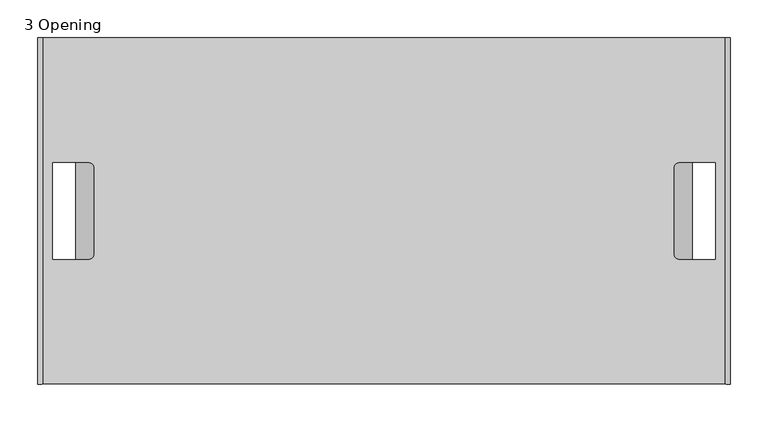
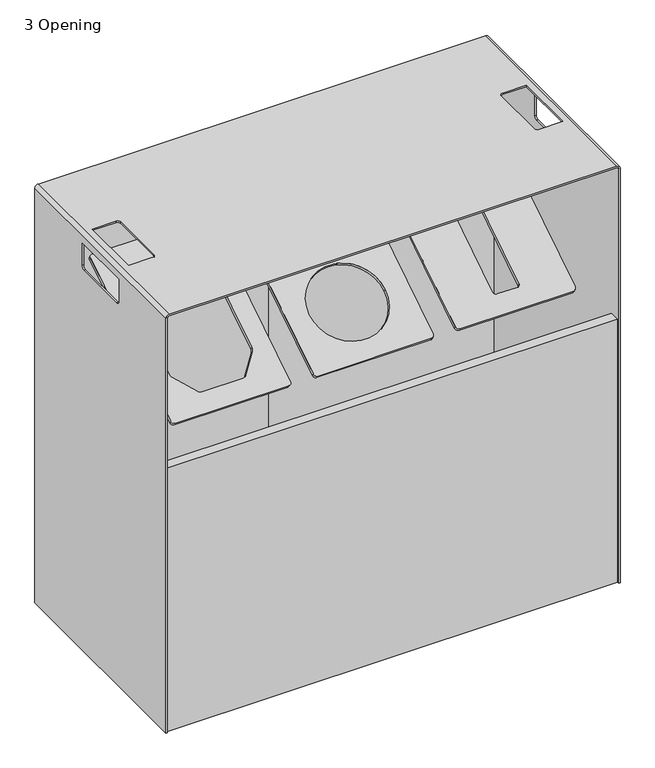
"""IFC4 building model written with IfcOpenShell, lengths in millimetres: furniture geometry, Steelcase - Victor2 - Mobile Unit : 3 Opening."""

from ifc_helpers import new_model, si_unit, point, frame, origin, place, context, project, spatial, polyline, circle_curve, ellipse_curve, trimmed, outline, extrude, source, transform, mapped, element, save
from ifc_brep_helpers import plane_surface, cylinder_surface, revolved_surface, extruded_surface, advanced_brep


def furniture_3_opening_457c4e11(model_context):
    return source(origin(), model_context, "Body", "SolidModel", [
        advanced_brep(
        [(56.15, -102.6571407, 810.2637759), (49.8, -108.013156, 806.8526764), (49.8, -386.8172703, 629.2899642), (56.15, -392.1732856, 625.8788646), (284.75, -392.1732856, 625.8788646), (291.1, -386.8172703, 629.2899642), (291.1, -108.013156, 806.8526764), (284.75, -102.6571407, 810.2637759), (87.9, -181.8492622, 759.8284805), (90.1001533, -176.7313579, 763.0879338), (122.8895643, -143.6088696, 784.1827403), (130.838696, -140.472476, 786.1802235), (209.3959224, -140.472476, 786.1802235), (220.1220339, -144.7339742, 783.4661919), (251.3108387, -176.5831405, 763.1823293), (253.0, -180.5453164, 760.6589279), (253.0, -317.6889974, 673.3158698), (250.0484863, -324.5546846, 668.9433015), (219.8334911, -355.076606, 649.5047249), (211.2749163, -358.4534602, 647.3540988), (128.6285355, -358.4534602, 647.3540988), (122.0278056, -355.8309816, 649.0242837), (90.005801, -323.1309741, 669.8500238), (87.9, -318.1915086, 672.9958342), (56.15, -99.5358468, 805.3628057), (284.75, -99.5358468, 805.3628057), (291.1, -104.8918621, 801.9517061), (291.1, -383.6959765, 624.388994), (284.75, -389.0519917, 620.9778944), (56.15, -389.0519917, 620.9778944), (49.8, -383.6959765, 624.388994), (49.8, -104.8918621, 801.9517061), (87.9, -178.7279683, 754.9275102), (87.9, -315.0702147, 668.094864), (90.005801, -320.0096802, 664.9490535), (122.0278056, -352.7096877, 644.1233135), (128.6285355, -355.3321664, 642.4531286), (211.2749163, -355.3321664, 642.4531286), (219.8334911, -351.9553121, 644.6037546), (250.0484863, -321.4333907, 664.0423313), (253.0, -314.5677035, 668.4148996), (253.0, -177.4240226, 755.7579576), (251.3108387, -173.4618467, 758.2813591), (220.1220339, -141.6126804, 778.5652216), (209.3959224, -137.3511822, 781.2792533), (130.838696, -137.3511822, 781.2792533), (122.8895643, -140.4875758, 779.28177), (90.1001533, -173.610064, 758.1869635)],
        [
            (0, 1, circle_curve(frame((56.15, -108.013156, 806.8526764), z_axis=(0.0, -0.537181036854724, 0.8434669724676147), x_axis=(1.0, 0.0, 0.0)), 6.35)),
            (1, 2),
            (2, 3, circle_curve(frame((56.15, -386.8172703, 629.2899642), z_axis=(0.0, -0.537181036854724, 0.8434669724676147), x_axis=(1.0, 0.0, 0.0)), 6.35)),
            (3, 4),
            (4, 5, circle_curve(frame((284.75, -386.8172703, 629.2899642), z_axis=(0.0, -0.537181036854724, 0.8434669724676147), x_axis=(1.0, 0.0, 0.0)), 6.35)),
            (5, 6),
            (6, 7, circle_curve(frame((284.75, -108.013156, 806.8526764), z_axis=(0.0, -0.537181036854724, 0.8434669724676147), x_axis=(1.0, 0.0, 0.0)), 6.35)),
            (7, 0),
            (8, 9, circle_curve(frame((97.366989, -181.8492622, 759.8284805), z_axis=(0.0, 0.537181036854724, -0.8434669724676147), x_axis=(1.0, 0.0, 0.0)), 9.466989)),
            (9, 10),
            (10, 11, circle_curve(frame((130.838696, -149.207303, 780.6172512), z_axis=(0.0, 0.537181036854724, -0.8434669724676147), x_axis=(1.0, 0.0, 0.0)), 10.3558613)),
            (11, 12),
            (12, 13, circle_curve(frame((209.3959224, -152.2067016, 778.7070164), z_axis=(0.0, 0.537181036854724, -0.8434669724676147), x_axis=(1.0, 0.0, 0.0)), 13.9118968)),
            (13, 14),
            (14, 15, circle_curve(frame((245.6236593, -180.5453164, 760.6589279), z_axis=(0.0, 0.537181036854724, -0.8434669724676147), x_axis=(1.0, 0.0, 0.0)), 7.3763407)),
            (15, 16),
            (16, 17, circle_curve(frame((240.3, -317.6889974, 673.3158698), z_axis=(0.0, 0.537181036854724, -0.8434669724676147), x_axis=(1.0, 0.0, 0.0)), 12.7)),
            (17, 18),
            (18, 19, circle_curve(frame((211.2749163, -349.0489526, 653.3435724), z_axis=(0.0, 0.537181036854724, -0.8434669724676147), x_axis=(1.0, 0.0, 0.0)), 11.1498233)),
            (19, 20),
            (20, 21, circle_curve(frame((128.6285355, -351.2323482, 651.9530275), z_axis=(0.0, 0.537181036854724, -0.8434669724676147), x_axis=(1.0, 0.0, 0.0)), 8.5612268)),
            (21, 22),
            (22, 23, circle_curve(frame((97.0957503, -318.1915086, 672.9958342), z_axis=(0.0, 0.537181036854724, -0.8434669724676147), x_axis=(1.0, 0.0, 0.0)), 9.1957503)),
            (23, 8),
            (24, 25),
            (25, 26, circle_curve(frame((284.75, -104.8918621, 801.9517061), z_axis=(0.0, 0.537181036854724, -0.8434669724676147), x_axis=(1.0, 0.0, 0.0)), 6.35)),
            (26, 27),
            (27, 28, circle_curve(frame((284.75, -383.6959765, 624.388994), z_axis=(0.0, 0.537181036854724, -0.8434669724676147), x_axis=(1.0, 0.0, 0.0)), 6.35)),
            (28, 29),
            (29, 30, circle_curve(frame((56.15, -383.6959765, 624.388994), z_axis=(0.0, 0.537181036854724, -0.8434669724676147), x_axis=(1.0, 0.0, 0.0)), 6.35)),
            (30, 31),
            (31, 24, circle_curve(frame((56.15, -104.8918621, 801.9517061), z_axis=(0.0, 0.537181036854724, -0.8434669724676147), x_axis=(1.0, 0.0, 0.0)), 6.35)),
            (32, 33),
            (33, 34, circle_curve(frame((97.0957503, -315.0702147, 668.094864), z_axis=(0.0, -0.537181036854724, 0.8434669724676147), x_axis=(1.0, 0.0, 0.0)), 9.1957503)),
            (34, 35),
            (35, 36, circle_curve(frame((128.6285355, -348.1110543, 647.0520572), z_axis=(0.0, -0.537181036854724, 0.8434669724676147), x_axis=(1.0, 0.0, 0.0)), 8.5612268)),
            (36, 37),
            (37, 38, circle_curve(frame((211.2749163, -345.9276587, 648.4426022), z_axis=(0.0, -0.537181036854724, 0.8434669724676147), x_axis=(1.0, 0.0, 0.0)), 11.1498233)),
            (38, 39),
            (39, 40, circle_curve(frame((240.3, -314.5677035, 668.4148996), z_axis=(0.0, -0.537181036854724, 0.8434669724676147), x_axis=(1.0, 0.0, 0.0)), 12.7)),
            (40, 41),
            (41, 42, circle_curve(frame((245.6236593, -177.4240226, 755.7579576), z_axis=(0.0, -0.537181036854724, 0.8434669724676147), x_axis=(1.0, 0.0, 0.0)), 7.3763407)),
            (42, 43),
            (43, 44, circle_curve(frame((209.3959224, -149.0854077, 773.8060461), z_axis=(0.0, -0.537181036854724, 0.8434669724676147), x_axis=(1.0, 0.0, 0.0)), 13.9118968)),
            (44, 45),
            (45, 46, circle_curve(frame((130.838696, -146.0860091, 775.716281), z_axis=(0.0, -0.537181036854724, 0.8434669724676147), x_axis=(1.0, 0.0, 0.0)), 10.3558613)),
            (46, 47),
            (47, 32, circle_curve(frame((97.366989, -178.7279683, 754.9275102), z_axis=(0.0, -0.537181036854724, 0.8434669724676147), x_axis=(1.0, 0.0, 0.0)), 9.466989)),
            (0, 24),
            (31, 1),
            (30, 2),
            (29, 3),
            (28, 4),
            (27, 5),
            (26, 6),
            (25, 7),
            (8, 32),
            (47, 9),
            (46, 10),
            (45, 11),
            (44, 12),
            (43, 13),
            (42, 14),
            (41, 15),
            (40, 16),
            (39, 17),
            (38, 18),
            (37, 19),
            (36, 20),
            (35, 21),
            (34, 22),
            (33, 23),
        ],
        [
            plane_surface(frame((62.5, -108.013156, 806.8526764), z_axis=(0.0, -0.5371810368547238, 0.8434669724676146), x_axis=(0.0, 0.8434669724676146, 0.5371810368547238))),
            plane_surface(frame((62.5, -104.8918621, 801.9517061), z_axis=(0.0, 0.5371810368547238, -0.8434669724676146), x_axis=(0.0, -0.8434669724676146, -0.5371810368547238))),
            cylinder_surface(frame((56.15, -104.8918621, 801.9517061), z_axis=(0.0, -0.537181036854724, 0.8434669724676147), x_axis=(1.0, 0.0, 0.0)), 6.35),
            plane_surface(frame((49.8, -108.013156, 806.8526764), z_axis=(-1.0000000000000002, 0.0, 0.0), x_axis=(0.0, 0.5371810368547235, -0.843466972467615))),
            cylinder_surface(frame((56.15, -383.6959765, 624.388994), z_axis=(0.0, -0.537181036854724, 0.8434669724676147), x_axis=(1.0, 0.0, 0.0)), 6.35),
            plane_surface(frame((56.15, -392.1732856, 625.8788646), z_axis=(0.0, -0.843466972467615, -0.5371810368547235), x_axis=(0.0, 0.5371810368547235, -0.843466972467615))),
            cylinder_surface(frame((284.75, -383.6959765, 624.388994), z_axis=(0.0, -0.537181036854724, 0.8434669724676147), x_axis=(1.0, 0.0, 0.0)), 6.35),
            plane_surface(frame((291.1, -386.8172703, 629.2899642), z_axis=(1.0000000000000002, 0.0, 0.0), x_axis=(0.0, 0.5371810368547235, -0.843466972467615))),
            cylinder_surface(frame((284.75, -104.8918621, 801.9517061), z_axis=(0.0, -0.537181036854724, 0.8434669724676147), x_axis=(1.0, 0.0, 0.0)), 6.35),
            plane_surface(frame((284.75, -102.6571407, 810.2637759), z_axis=(0.0, 0.8434669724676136, 0.5371810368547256), x_axis=(0.0, 0.5371810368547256, -0.8434669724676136))),
            revolved_surface(polyline([(106.833978, -178.7279683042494, 754.9275101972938), (106.833978, -181.8492622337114, 759.8284805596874)]), (97.366989, 251.3620675, 79.6118987), (0.0, 0.537181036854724, -0.8434669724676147)),
            plane_surface(frame((90.1001533, -176.7313579, 763.0879338), z_axis=(0.767597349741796, -0.5406052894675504, -0.34429671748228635), x_axis=(0.0, 0.5371810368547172, -0.843466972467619))),
            revolved_surface(polyline([(141.19455729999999, -146.0860091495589, 775.7162809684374), (141.19455729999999, -149.20730301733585, 780.617251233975)]), (130.838696, 284.0040267, 100.4006694), (0.0, 0.537181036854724, -0.8434669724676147)),
            plane_surface(frame((130.838696, -140.472476, 786.1802235), z_axis=(0.0, -0.8434669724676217, -0.537181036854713), x_axis=(0.0, 0.537181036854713, -0.8434669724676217))),
            revolved_surface(polyline([(223.30781919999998, -149.085407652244, 773.8060460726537), (223.30781919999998, -152.20670157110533, 778.7070164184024)]), (209.3959224, 281.0046282, 98.4904345), (0.0, 0.537181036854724, -0.8434669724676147)),
            plane_surface(frame((220.1220339, -144.7339742, 783.4661919), z_axis=(-0.7710028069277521, -0.5371465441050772, -0.3420939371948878), x_axis=(0.0, 0.5371810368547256, -0.8434669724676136))),
            revolved_surface(polyline([(253.0, -177.42402257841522, 755.7579576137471), (253.0, -180.545316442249, 760.6589278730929)]), (245.6236593, 252.6660133, 80.442346), (0.0, 0.537181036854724, -0.8434669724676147)),
            plane_surface(frame((253.0, -180.5453164, 760.6589279), z_axis=(-1.0000000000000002, 0.0, 0.0), x_axis=(0.0, 0.5371810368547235, -0.843466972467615))),
            revolved_surface(polyline([(253.0, -314.56770354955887, 668.4148995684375), (253.0, -317.68899740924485, 673.3158698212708)]), (240.3, 115.5223323, -6.900712), (0.0, 0.537181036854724, -0.8434669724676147)),
            plane_surface(frame((250.0484863, -324.5546846, 668.9433015), z_axis=(-0.7675973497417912, 0.5406052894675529, 0.3442967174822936), x_axis=(0.0, 0.5371810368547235, -0.843466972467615))),
            revolved_surface(polyline([(222.4247396, -345.92765864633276, 648.4426021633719), (222.4247396, -349.04895253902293, 653.3435724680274)]), (211.2749163, 84.1623772, -26.8730094), (0.0, 0.537181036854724, -0.8434669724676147)),
            plane_surface(frame((211.2749163, -358.4534602, 647.3540988), z_axis=(0.0, 0.843466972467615, 0.5371810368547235), x_axis=(0.0, 0.5371810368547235, -0.843466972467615))),
            revolved_surface(polyline([(137.18976229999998, -348.1110542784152, 647.052057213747), (137.18976229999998, -351.23234817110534, 651.9530275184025)]), (128.6285355, 81.9789816, -28.2635544), (0.0, 0.537181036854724, -0.8434669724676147)),
            plane_surface(frame((122.0278056, -355.8309816, 649.0242837), z_axis=(0.7710028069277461, 0.5371465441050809, 0.3420939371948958), x_axis=(0.0, 0.5371810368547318, -0.8434669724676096))),
            revolved_surface(polyline([(106.2915006, -315.07021471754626, 668.0948639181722), (106.2915006, -318.19150861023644, 672.9958342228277)]), (97.0957503, 115.0198211, -7.2207476), (0.0, 0.537181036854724, -0.8434669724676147)),
            plane_surface(frame((87.9, -318.1915086, 672.9958342), z_axis=(1.0000000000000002, 0.0, 0.0), x_axis=(0.0, 0.5371810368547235, -0.843466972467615))),
        ],
        [
            (0, [[1, 2, 3, 4, 5, 6, 7, 8], [9, 10, 11, 12, 13, 14, 15, 16, 17, 18, 19, 20, 21, 22, 23, 24]]),
            (1, [[25, 26, 27, 28, 29, 30, 31, 32], [33, 34, 35, 36, 37, 38, 39, 40, 41, 42, 43, 44, 45, 46, 47, 48]]),
            (2, [[-1, 49, -32, 50]]),
            (3, [[-2, -50, -31, 51]]),
            (4, [[-3, -51, -30, 52]]),
            (5, [[-4, -52, -29, 53]]),
            (6, [[-5, -53, -28, 54]]),
            (7, [[-6, -54, -27, 55]]),
            (8, [[-7, -55, -26, 56]]),
            (9, [[-8, -56, -25, -49]]),
            (10, [[-9, 57, -48, 58]]),
            (11, [[-10, -58, -47, 59]]),
            (12, [[-11, -59, -46, 60]]),
            (13, [[-12, -60, -45, 61]]),
            (14, [[-13, -61, -44, 62]]),
            (15, [[-14, -62, -43, 63]]),
            (16, [[-15, -63, -42, 64]]),
            (17, [[-16, -64, -41, 65]]),
            (18, [[-17, -65, -40, 66]]),
            (19, [[-18, -66, -39, 67]]),
            (20, [[-19, -67, -38, 68]]),
            (21, [[-20, -68, -37, 69]]),
            (22, [[-21, -69, -36, 70]]),
            (23, [[-22, -70, -35, 71]]),
            (24, [[-23, -71, -34, 72]]),
            (25, [[-24, -72, -33, -57]]),
        ],
    ),
        advanced_brep(
        [(343.4, -102.6571407, 810.2637759), (337.05, -108.013156, 806.8526764), (337.05, -386.8503278, 629.2689108), (343.4, -392.2063431, 625.8578112), (572.0, -392.2063431, 625.8578112), (578.35, -386.8503278, 629.2689108), (578.35, -108.013156, 806.8526764), (572.0, -102.6571407, 810.2637759), (533.4, -297.7719943, 686.0004642), (381.0, -297.7719943, 686.0004642), (343.4, -99.5358468, 805.3628057), (572.0, -99.5358468, 805.3628057), (578.35, -104.8918621, 801.9517061), (578.35, -383.7290339, 624.3679406), (572.0, -389.0850492, 620.956841), (343.4, -389.0850492, 620.956841), (337.05, -383.7290339, 624.3679406), (337.05, -104.8918621, 801.9517061), (533.4, -294.6507004, 681.0994939), (381.0, -294.6507004, 681.0994939)],
        [
            (0, 1, circle_curve(frame((343.4, -108.013156, 806.8526764), z_axis=(0.0, -0.537181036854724, 0.8434669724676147), x_axis=(1.0, 0.0, 0.0)), 6.35)),
            (1, 2),
            (2, 3, circle_curve(frame((343.4, -386.8503278, 629.2689108), z_axis=(0.0, -0.537181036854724, 0.8434669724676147), x_axis=(1.0, 0.0, 0.0)), 6.35)),
            (3, 4),
            (4, 5, circle_curve(frame((572.0, -386.8503278, 629.2689108), z_axis=(0.0, -0.537181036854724, 0.8434669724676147), x_axis=(1.0, 0.0, 0.0)), 6.35)),
            (5, 6),
            (6, 7, circle_curve(frame((572.0, -108.013156, 806.8526764), z_axis=(0.0, -0.537181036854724, 0.8434669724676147), x_axis=(1.0, 0.0, 0.0)), 6.35)),
            (7, 0),
            (8, 9, ellipse_curve(frame((457.2, -297.7719943, 686.0004642), z_axis=(0.0, 0.537181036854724, -0.8434669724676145), x_axis=(-1.0, 0.0, 0.0)), 76.2, 75.117907)),
            (9, 8, ellipse_curve(frame((457.2, -297.7719943, 686.0004642), z_axis=(0.0, 0.537181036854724, -0.8434669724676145), x_axis=(-1.0, 0.0, 0.0)), 76.2, 75.117907)),
            (10, 11),
            (11, 12, circle_curve(frame((572.0, -104.8918621, 801.9517061), z_axis=(0.0, 0.537181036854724, -0.8434669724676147), x_axis=(1.0, 0.0, 0.0)), 6.35)),
            (12, 13),
            (13, 14, circle_curve(frame((572.0, -383.7290339, 624.3679406), z_axis=(0.0, 0.537181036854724, -0.8434669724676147), x_axis=(1.0, 0.0, 0.0)), 6.35)),
            (14, 15),
            (15, 16, circle_curve(frame((343.4, -383.7290339, 624.3679406), z_axis=(0.0, 0.537181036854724, -0.8434669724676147), x_axis=(1.0, 0.0, 0.0)), 6.35)),
            (16, 17),
            (17, 10, circle_curve(frame((343.4, -104.8918621, 801.9517061), z_axis=(0.0, 0.537181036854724, -0.8434669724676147), x_axis=(1.0, 0.0, 0.0)), 6.35)),
            (18, 19, ellipse_curve(frame((457.2, -294.6507004, 681.0994939), z_axis=(0.0, -0.537181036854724, 0.8434669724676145), x_axis=(-1.0, 0.0, 0.0)), 76.2, 75.117907)),
            (19, 18, ellipse_curve(frame((457.2, -294.6507004, 681.0994939), z_axis=(0.0, -0.537181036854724, 0.8434669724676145), x_axis=(-1.0, 0.0, 0.0)), 76.2, 75.117907)),
            (0, 10),
            (17, 1),
            (16, 2),
            (15, 3),
            (14, 4),
            (13, 5),
            (12, 6),
            (11, 7),
            (8, 18),
            (19, 9),
        ],
        [
            plane_surface(frame((62.5, -108.013156, 806.8526764), z_axis=(0.0, -0.5371810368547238, 0.8434669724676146), x_axis=(0.0, 0.8434669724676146, 0.5371810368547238))),
            plane_surface(frame((62.5, -104.8918621, 801.9517061), z_axis=(0.0, 0.5371810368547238, -0.8434669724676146), x_axis=(0.0, -0.8434669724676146, -0.5371810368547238))),
            cylinder_surface(frame((343.4, 325.1981738, 126.6360945), z_axis=(0.0, -0.537181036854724, 0.8434669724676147), x_axis=(1.0, 0.0, 0.0)), 6.35),
            plane_surface(frame((337.05, -108.013156, 806.8526764), z_axis=(-1.0000000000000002, 0.0, 0.0), x_axis=(0.0, 0.5371810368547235, -0.843466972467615))),
            cylinder_surface(frame((343.4, 46.3610019, -50.947671), z_axis=(0.0, -0.537181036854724, 0.8434669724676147), x_axis=(1.0, 0.0, 0.0)), 6.35),
            plane_surface(frame((343.4, -392.2063431, 625.8578112), z_axis=(0.0, -0.8434669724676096, -0.5371810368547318), x_axis=(0.0, 0.5371810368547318, -0.8434669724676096))),
            cylinder_surface(frame((572.0, 46.3610019, -50.947671), z_axis=(0.0, -0.537181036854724, 0.8434669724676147), x_axis=(1.0, 0.0, 0.0)), 6.35),
            plane_surface(frame((578.35, -386.8503278, 629.2689108), z_axis=(1.0000000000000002, 0.0, 0.0), x_axis=(0.0, 0.5371810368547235, -0.843466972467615))),
            cylinder_surface(frame((572.0, 325.1981738, 126.6360945), z_axis=(0.0, -0.537181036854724, 0.8434669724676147), x_axis=(1.0, 0.0, 0.0)), 6.35),
            plane_surface(frame((572.0, -102.6571407, 810.2637759), z_axis=(0.0, 0.843466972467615, 0.5371810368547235), x_axis=(0.0, 0.5371810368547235, -0.843466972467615))),
            extruded_surface(trimmed(ellipse_curve(frame((457.2, 138.5606293, 0.8829121), z_axis=(0.0, 0.537181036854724, -0.8434669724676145), x_axis=(-1.0, 0.0, 0.0)), 76.2, 75.117907), [point((533.4, 138.5606293, 0.8829121))], [point((381.0, 138.5606293, 0.8829121))], True, "CARTESIAN"), (0.0, -3.1212938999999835, 4.9009702), 5.810506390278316),
            extruded_surface(trimmed(ellipse_curve(frame((457.2, 138.5606293, 0.8829121), z_axis=(0.0, 0.537181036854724, -0.8434669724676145), x_axis=(-1.0, 0.0, 0.0)), 76.2, 75.117907), [point((381.0, 138.5606293, 0.8829121))], [point((533.4, 138.5606293, 0.8829121))], True, "CARTESIAN"), (0.0, -3.1212938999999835, 4.9009702), 5.810506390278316),
        ],
        [
            (0, [[1, 2, 3, 4, 5, 6, 7, 8], [9, 10]]),
            (1, [[11, 12, 13, 14, 15, 16, 17, 18], [19, 20]]),
            (2, [[-1, 21, -18, 22]]),
            (3, [[-2, -22, -17, 23]]),
            (4, [[-3, -23, -16, 24]]),
            (5, [[-4, -24, -15, 25]]),
            (6, [[-5, -25, -14, 26]]),
            (7, [[-6, -26, -13, 27]]),
            (8, [[-7, -27, -12, 28]]),
            (9, [[-8, -28, -11, -21]]),
            (10, [[-9, 29, -20, 30]]),
            (11, [[-10, -30, -19, -29]]),
        ],
    ),
        advanced_brep(
        [(629.65, -102.6571407, 810.2637759), (623.3, -108.013156, 806.8526764), (623.3, -386.3567281, 629.583271), (629.65, -391.7127434, 626.1721714), (858.25, -391.7127434, 626.1721714), (864.6, -386.3567281, 629.583271), (864.6, -108.013156, 806.8526764), (858.25, -102.6571407, 810.2637759), (717.86, -141.7661355, 785.3563272), (722.94, -137.4813233, 788.0852069), (764.96, -137.4813233, 788.0852069), (770.04, -141.7661355, 785.3563272), (770.04, -354.168648, 650.0829785), (764.96, -358.4534602, 647.3540988), (722.94, -358.4534602, 647.3540988), (717.86, -354.168648, 650.0829785), (629.65, -99.5358468, 805.3628057), (858.25, -99.5358468, 805.3628057), (864.6, -104.8918621, 801.9517061), (864.6, -383.2354342, 624.6823007), (858.25, -388.5914495, 621.2712011), (629.65, -388.5914495, 621.2712011), (623.3, -383.2354342, 624.6823007), (623.3, -104.8918621, 801.9517061), (717.86, -138.6448416, 780.455357), (717.86, -351.0473541, 645.1820082), (722.94, -355.3321664, 642.4531286), (764.96, -355.3321664, 642.4531286), (770.04, -351.0473541, 645.1820082), (770.04, -138.6448416, 780.455357), (764.96, -134.3600294, 783.1842366), (722.94, -134.3600294, 783.1842366)],
        [
            (0, 1, circle_curve(frame((629.65, -108.013156, 806.8526764), z_axis=(0.0, -0.537181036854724, 0.8434669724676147), x_axis=(1.0, 0.0, 0.0)), 6.35)),
            (1, 2),
            (2, 3, circle_curve(frame((629.65, -386.3567281, 629.583271), z_axis=(0.0, -0.537181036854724, 0.8434669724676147), x_axis=(1.0, 0.0, 0.0)), 6.35)),
            (3, 4),
            (4, 5, circle_curve(frame((858.25, -386.3567281, 629.583271), z_axis=(0.0, -0.537181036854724, 0.8434669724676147), x_axis=(1.0, 0.0, 0.0)), 6.35)),
            (5, 6),
            (6, 7, circle_curve(frame((858.25, -108.013156, 806.8526764), z_axis=(0.0, -0.537181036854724, 0.8434669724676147), x_axis=(1.0, 0.0, 0.0)), 6.35)),
            (7, 0),
            (8, 9, circle_curve(frame((722.94, -141.7661355, 785.3563272), z_axis=(0.0, 0.537181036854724, -0.8434669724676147), x_axis=(1.0, 0.0, 0.0)), 5.08)),
            (9, 10),
            (10, 11, circle_curve(frame((764.96, -141.7661355, 785.3563272), z_axis=(0.0, 0.537181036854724, -0.8434669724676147), x_axis=(1.0, 0.0, 0.0)), 5.08)),
            (11, 12),
            (12, 13, circle_curve(frame((764.96, -354.168648, 650.0829785), z_axis=(0.0, 0.537181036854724, -0.8434669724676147), x_axis=(1.0, 0.0, 0.0)), 5.08)),
            (13, 14),
            (14, 15, circle_curve(frame((722.94, -354.168648, 650.0829785), z_axis=(0.0, 0.537181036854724, -0.8434669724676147), x_axis=(1.0, 0.0, 0.0)), 5.08)),
            (15, 8),
            (16, 17),
            (17, 18, circle_curve(frame((858.25, -104.8918621, 801.9517061), z_axis=(0.0, 0.537181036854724, -0.8434669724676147), x_axis=(1.0, 0.0, 0.0)), 6.35)),
            (18, 19),
            (19, 20, circle_curve(frame((858.25, -383.2354342, 624.6823007), z_axis=(0.0, 0.537181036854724, -0.8434669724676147), x_axis=(1.0, 0.0, 0.0)), 6.35)),
            (20, 21),
            (21, 22, circle_curve(frame((629.65, -383.2354342, 624.6823007), z_axis=(0.0, 0.537181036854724, -0.8434669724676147), x_axis=(1.0, 0.0, 0.0)), 6.35)),
            (22, 23),
            (23, 16, circle_curve(frame((629.65, -104.8918621, 801.9517061), z_axis=(0.0, 0.537181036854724, -0.8434669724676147), x_axis=(1.0, 0.0, 0.0)), 6.35)),
            (24, 25),
            (25, 26, circle_curve(frame((722.94, -351.0473541, 645.1820082), z_axis=(0.0, -0.537181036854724, 0.8434669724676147), x_axis=(1.0, 0.0, 0.0)), 5.08)),
            (26, 27),
            (27, 28, circle_curve(frame((764.96, -351.0473541, 645.1820082), z_axis=(0.0, -0.537181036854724, 0.8434669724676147), x_axis=(1.0, 0.0, 0.0)), 5.08)),
            (28, 29),
            (29, 30, circle_curve(frame((764.96, -138.6448416, 780.455357), z_axis=(0.0, -0.537181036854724, 0.8434669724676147), x_axis=(1.0, 0.0, 0.0)), 5.08)),
            (30, 31),
            (31, 24, circle_curve(frame((722.94, -138.6448416, 780.455357), z_axis=(0.0, -0.537181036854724, 0.8434669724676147), x_axis=(1.0, 0.0, 0.0)), 5.08)),
            (0, 16),
            (23, 1),
            (22, 2),
            (21, 3),
            (20, 4),
            (19, 5),
            (18, 6),
            (17, 7),
            (8, 24),
            (31, 9),
            (30, 10),
            (29, 11),
            (28, 12),
            (27, 13),
            (26, 14),
            (25, 15),
        ],
        [
            plane_surface(frame((62.5, -108.013156, 806.8526764), z_axis=(0.0, -0.5371810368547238, 0.8434669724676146), x_axis=(0.0, 0.8434669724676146, 0.5371810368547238))),
            plane_surface(frame((62.5, -104.8918621, 801.9517061), z_axis=(0.0, 0.5371810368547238, -0.8434669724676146), x_axis=(0.0, -0.8434669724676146, -0.5371810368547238))),
            cylinder_surface(frame((629.65, 325.1981738, 126.6360945), z_axis=(0.0, -0.537181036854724, 0.8434669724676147), x_axis=(1.0, 0.0, 0.0)), 6.35),
            plane_surface(frame((623.3, -108.013156, 806.8526764), z_axis=(-1.0, 0.0, 0.0), x_axis=(0.0, 0.5371810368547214, -0.8434669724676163))),
            cylinder_surface(frame((629.65, 46.8546016, -50.6333109), z_axis=(0.0, -0.537181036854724, 0.8434669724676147), x_axis=(1.0, 0.0, 0.0)), 6.35),
            plane_surface(frame((629.65, -391.7127434, 626.1721714), z_axis=(0.0, -0.843466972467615, -0.5371810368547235), x_axis=(0.0, 0.5371810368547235, -0.843466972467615))),
            cylinder_surface(frame((858.25, 46.8546016, -50.6333109), z_axis=(0.0, -0.537181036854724, 0.8434669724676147), x_axis=(1.0, 0.0, 0.0)), 6.35),
            plane_surface(frame((864.6, -386.3567281, 629.583271), z_axis=(1.0000000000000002, 0.0, 0.0), x_axis=(0.0, 0.537181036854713, -0.8434669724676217))),
            cylinder_surface(frame((858.25, 325.1981738, 126.6360945), z_axis=(0.0, -0.537181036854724, 0.8434669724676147), x_axis=(1.0, 0.0, 0.0)), 6.35),
            plane_surface(frame((858.25, -102.6571407, 810.2637759), z_axis=(0.0, 0.8434669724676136, 0.5371810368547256), x_axis=(0.0, 0.5371810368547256, -0.8434669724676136))),
            revolved_surface(polyline([(728.0200000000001, -138.64484155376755, 780.455356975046), (728.0200000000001, -141.76613544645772, 785.3563272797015)]), (722.94, 291.4451943, 105.1397454), (0.0, 0.537181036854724, -0.8434669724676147)),
            plane_surface(frame((722.94, -137.4813233, 788.0852069), z_axis=(0.0, -0.8434669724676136, -0.5371810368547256), x_axis=(0.0, 0.5371810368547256, -0.8434669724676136))),
            revolved_surface(polyline([(770.0400000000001, -138.64484155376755, 780.455356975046), (770.0400000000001, -141.76613544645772, 785.3563272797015)]), (764.96, 291.4451943, 105.1397454), (0.0, 0.537181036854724, -0.8434669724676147)),
            plane_surface(frame((770.04, -141.7661355, 785.3563272), z_axis=(-1.0000000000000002, 0.0, 0.0), x_axis=(0.0, 0.5371810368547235, -0.843466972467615))),
            revolved_surface(polyline([(770.0400000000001, -351.0473541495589, 645.1820081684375), (770.0400000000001, -354.16864804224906, 650.082978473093)]), (764.96, 79.0426817, -30.1336034), (0.0, 0.537181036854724, -0.8434669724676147)),
            plane_surface(frame((764.96, -358.4534602, 647.3540988), z_axis=(0.0, 0.8434669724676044, 0.5371810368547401), x_axis=(0.0, 0.5371810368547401, -0.8434669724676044))),
            revolved_surface(polyline([(728.0200000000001, -351.0473541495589, 645.1820081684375), (728.0200000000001, -354.16864804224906, 650.082978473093)]), (722.94, 79.0426817, -30.1336034), (0.0, 0.537181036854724, -0.8434669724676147)),
            plane_surface(frame((717.86, -354.168648, 650.0829785), z_axis=(1.0, 0.0, 0.0), x_axis=(0.0, 0.5371810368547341, -0.8434669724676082))),
        ],
        [
            (0, [[1, 2, 3, 4, 5, 6, 7, 8], [9, 10, 11, 12, 13, 14, 15, 16]]),
            (1, [[17, 18, 19, 20, 21, 22, 23, 24], [25, 26, 27, 28, 29, 30, 31, 32]]),
            (2, [[-1, 33, -24, 34]]),
            (3, [[-2, -34, -23, 35]]),
            (4, [[-3, -35, -22, 36]]),
            (5, [[-4, -36, -21, 37]]),
            (6, [[-5, -37, -20, 38]]),
            (7, [[-6, -38, -19, 39]]),
            (8, [[-7, -39, -18, 40]]),
            (9, [[-8, -40, -17, -33]]),
            (10, [[-9, 41, -32, 42]]),
            (11, [[-10, -42, -31, 43]]),
            (12, [[-11, -43, -30, 44]]),
            (13, [[-12, -44, -29, 45]]),
            (14, [[-13, -45, -28, 46]]),
            (15, [[-14, -46, -27, 47]]),
            (16, [[-15, -47, -26, 48]]),
            (17, [[-16, -48, -25, -41]]),
        ],
    ),
        advanced_brep(
        [(6.35, -457.2, 914.4), (0.0, -457.2, 908.05), (0.0, -457.2, 25.4), (2.84, -457.2, 25.4), (2.84, -457.2, 907.7587124), (6.5909206, -457.2, 911.509633), (907.4346143, -457.2, 911.509633), (911.56, -457.2, 907.3842473), (911.56, -457.2, 25.4), (914.4, -457.2, 25.4), (914.4, -457.2, 908.05), (908.05, -457.2, 914.4), (6.35, 0.0, 914.4), (908.05, 0.0, 914.4), (914.4, 0.0, 908.05), (914.4, 0.0, 25.4), (911.56, 0.0, 25.4), (911.56, 0.0, 907.3842473), (907.4346143, 0.0, 911.509633), (6.5909206, 0.0, 911.509633), (2.84, 0.0, 907.7587124), (2.84, 0.0, 25.4), (0.0, 0.0, 25.4), (0.0, 0.0, 908.05), (0.0, -292.2, 891.399), (0.0, -292.2, 843.768), (0.0, -285.85, 837.418), (0.0, -171.439, 837.418), (0.0, -165.089, 843.768), (0.0, -165.089, 891.399), (2.84, -292.2, 843.768), (2.84, -292.2, 891.399), (2.84, -165.089, 891.399), (2.84, -165.089, 843.768), (2.84, -171.439, 837.418), (2.84, -285.85, 837.418), (67.5633572, -165.2030242, 911.509633), (19.9, -165.2030242, 911.509633), (19.9, -292.2, 911.509633), (67.5633572, -292.2, 911.509633), (73.9133572, -285.85, 911.509633), (73.9133572, -171.5530242, 911.509633), (846.8366428, -165.2030242, 911.509633), (840.4866428, -171.5530242, 911.509633), (840.4866428, -285.85, 911.509633), (846.8366428, -292.2, 911.509633), (894.5, -292.2, 911.509633), (894.5, -165.2030242, 911.509633), (911.56, -292.2, 891.399), (911.56, -292.2, 843.768), (911.56, -285.85, 837.418), (911.56, -171.439, 837.418), (911.56, -165.089, 843.768), (911.56, -165.089, 891.399), (914.4, -292.2, 843.768), (914.4, -292.2, 891.399), (914.4, -165.089, 891.399), (914.4, -165.089, 843.768), (914.4, -171.439, 837.418), (914.4, -285.85, 837.418), (19.9, -165.2030242, 914.4), (67.5633572, -165.2030242, 914.4), (73.9133572, -171.5530242, 914.4), (73.9133572, -285.85, 914.4), (67.5633572, -292.2, 914.4), (19.9, -292.2, 914.4), (840.4866428, -171.5530242, 914.4), (846.8366428, -165.2030242, 914.4), (894.5, -165.2030242, 914.4), (894.5, -292.2, 914.4), (846.8366428, -292.2, 914.4), (840.4866428, -285.85, 914.4)],
        [
            (0, 1, circle_curve(frame((6.35, -457.2, 908.05), z_axis=(0.0, -1.0, 0.0), x_axis=(1.0, 0.0, 0.0)), 6.35)),
            (1, 2),
            (2, 3),
            (3, 4),
            (4, 5, circle_curve(frame((6.5909206, -457.2, 907.7587124), z_axis=(0.0, 1.0, 0.0), x_axis=(1.0, 0.0, 0.0)), 3.7509206)),
            (5, 6),
            (6, 7, circle_curve(frame((907.4346143, -457.2, 907.3842473), z_axis=(0.0, 1.0, 0.0), x_axis=(1.0, 0.0, 0.0)), 4.1253857)),
            (7, 8),
            (8, 9),
            (9, 10),
            (10, 11, circle_curve(frame((908.05, -457.2, 908.05), z_axis=(0.0, -1.0, 0.0), x_axis=(1.0, 0.0, 0.0)), 6.35)),
            (11, 0),
            (12, 13),
            (13, 14, circle_curve(frame((908.05, 0.0, 908.05), z_axis=(0.0, 1.0, 0.0), x_axis=(1.0, 0.0, 0.0)), 6.35)),
            (14, 15),
            (15, 16),
            (16, 17),
            (17, 18, circle_curve(frame((907.4346143, 0.0, 907.3842473), z_axis=(0.0, -1.0, 0.0), x_axis=(1.0, 0.0, 0.0)), 4.1253857)),
            (18, 19),
            (19, 20, circle_curve(frame((6.5909206, 0.0, 907.7587124), z_axis=(0.0, -1.0, 0.0), x_axis=(1.0, 0.0, 0.0)), 3.7509206)),
            (20, 21),
            (21, 22),
            (22, 23),
            (23, 12, circle_curve(frame((6.35, 0.0, 908.05), z_axis=(0.0, 1.0, 0.0), x_axis=(1.0, 0.0, 0.0)), 6.35)),
            (0, 12),
            (23, 1),
            (22, 2),
            (24, 25),
            (25, 26, circle_curve(frame((0.0, -285.85, 843.768), z_axis=(1.0, 0.0, 0.0), x_axis=(0.0, 1.0, 0.0)), 6.35)),
            (26, 27),
            (27, 28, circle_curve(frame((0.0, -171.439, 843.768), z_axis=(1.0, 0.0, 0.0), x_axis=(0.0, 1.0, 0.0)), 6.35)),
            (28, 29),
            (29, 24),
            (21, 3),
            (20, 4),
            (30, 31),
            (31, 32),
            (32, 33),
            (33, 34, circle_curve(frame((2.84, -171.439, 843.768), z_axis=(-1.0, 0.0, 0.0), x_axis=(0.0, 1.0, 0.0)), 6.35)),
            (34, 35),
            (35, 30, circle_curve(frame((2.84, -285.85, 843.768), z_axis=(-1.0, 0.0, 0.0), x_axis=(0.0, 1.0, 0.0)), 6.35)),
            (19, 5),
            (18, 6),
            (36, 37),
            (37, 38),
            (38, 39),
            (39, 40, circle_curve(frame((67.5633572, -285.85, 911.509633), z_axis=(0.0, 0.0, 1.0), x_axis=(1.0, 0.0, 0.0)), 6.35)),
            (40, 41),
            (41, 36, circle_curve(frame((67.5633572, -171.5530242, 911.509633), z_axis=(0.0, 0.0, 1.0), x_axis=(1.0, 0.0, 0.0)), 6.35)),
            (42, 43, circle_curve(frame((846.8366428, -171.5530242, 911.509633), z_axis=(0.0, 0.0, 1.0), x_axis=(1.0, 0.0, 0.0)), 6.35)),
            (43, 44),
            (44, 45, circle_curve(frame((846.8366428, -285.85, 911.509633), z_axis=(0.0, 0.0, 1.0), x_axis=(1.0, 0.0, 0.0)), 6.35)),
            (45, 46),
            (46, 47),
            (47, 42),
            (17, 7),
            (16, 8),
            (48, 49),
            (49, 50, circle_curve(frame((911.56, -285.85, 843.768), z_axis=(1.0, 0.0, 0.0), x_axis=(0.0, 1.0, 0.0)), 6.35)),
            (50, 51),
            (51, 52, circle_curve(frame((911.56, -171.439, 843.768), z_axis=(1.0, 0.0, 0.0), x_axis=(0.0, 1.0, 0.0)), 6.35)),
            (52, 53),
            (53, 48),
            (15, 9),
            (14, 10),
            (54, 55),
            (55, 56),
            (56, 57),
            (57, 58, circle_curve(frame((914.4, -171.439, 843.768), z_axis=(-1.0, 0.0, 0.0), x_axis=(0.0, 1.0, 0.0)), 6.35)),
            (58, 59),
            (59, 54, circle_curve(frame((914.4, -285.85, 843.768), z_axis=(-1.0, 0.0, 0.0), x_axis=(0.0, 1.0, 0.0)), 6.35)),
            (13, 11),
            (60, 61),
            (61, 62, circle_curve(frame((67.5633572, -171.5530242, 914.4), z_axis=(0.0, 0.0, -1.0), x_axis=(1.0, 0.0, 0.0)), 6.35)),
            (62, 63),
            (63, 64, circle_curve(frame((67.5633572, -285.85, 914.4), z_axis=(0.0, 0.0, -1.0), x_axis=(1.0, 0.0, 0.0)), 6.35)),
            (64, 65),
            (65, 60),
            (66, 67, circle_curve(frame((846.8366428, -171.5530242, 914.4), z_axis=(0.0, 0.0, -1.0), x_axis=(1.0, 0.0, 0.0)), 6.35)),
            (67, 68),
            (68, 69),
            (69, 70),
            (70, 71, circle_curve(frame((846.8366428, -285.85, 914.4), z_axis=(0.0, 0.0, -1.0), x_axis=(1.0, 0.0, 0.0)), 6.35)),
            (71, 66),
            (24, 31),
            (30, 25),
            (48, 55),
            (54, 49),
            (35, 26),
            (59, 50),
            (34, 27),
            (58, 51),
            (33, 28),
            (57, 52),
            (32, 29),
            (56, 53),
            (36, 61),
            (60, 37),
            (65, 38),
            (64, 39),
            (63, 40),
            (62, 41),
            (42, 67),
            (66, 43),
            (71, 44),
            (70, 45),
            (69, 46),
            (68, 47),
        ],
        [
            plane_surface(frame((12.7, -457.2, 908.05), z_axis=(0.0, -1.0, 0.0), x_axis=(0.0, 0.0, 1.0))),
            plane_surface(frame((12.7, 0.0, 908.05), z_axis=(0.0, 1.0, 0.0), x_axis=(0.0, 0.0, -1.0))),
            cylinder_surface(frame((6.35, 0.0, 908.05), z_axis=(0.0, -1.0, 0.0), x_axis=(1.0, 0.0, 0.0)), 6.35),
            plane_surface(frame((0.0, -457.2, 908.05), z_axis=(-1.0, 0.0, 0.0), x_axis=(0.0, 1.0, 0.0))),
            plane_surface(frame((0.0, -457.2, 25.4), z_axis=(0.0, 0.0, -1.0), x_axis=(0.0, 1.0, 0.0))),
            plane_surface(frame((2.84, -457.2, 25.4), z_axis=(1.0, 0.0, 0.0), x_axis=(0.0, 1.0, 0.0))),
            revolved_surface(polyline([(10.3418412, 0.0, 907.7587124), (10.3418412, -457.2, 907.7587124)]), (6.5909206, 0.0, 907.7587124), (0.0, 1.0, 0.0)),
            plane_surface(frame((6.5909206, -457.2, 911.509633), z_axis=(0.0, 0.0, -1.0), x_axis=(0.0, 1.0, 0.0))),
            revolved_surface(polyline([(911.5600000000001, 0.0, 907.3842473), (911.5600000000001, -457.2, 907.3842473)]), (907.4346143, 0.0, 907.3842473), (0.0, 1.0, 0.0)),
            plane_surface(frame((911.56, -457.2, 907.3842473), z_axis=(-1.0, 0.0, 0.0), x_axis=(0.0, 1.0, 0.0))),
            plane_surface(frame((911.56, -457.2, 25.4), z_axis=(0.0, 0.0, -1.0), x_axis=(0.0, 1.0, 0.0))),
            plane_surface(frame((914.4, -457.2, 25.4), z_axis=(1.0, 0.0, 0.0), x_axis=(0.0, 1.0, 0.0))),
            cylinder_surface(frame((908.05, 0.0, 908.05), z_axis=(0.0, -1.0, 0.0), x_axis=(1.0, 0.0, 0.0)), 6.35),
            plane_surface(frame((908.05, -457.2, 914.4), z_axis=(0.0, 0.0, 1.0), x_axis=(0.0, 1.0, 0.0))),
            plane_surface(frame((914.4, -292.2, 891.399), z_axis=(0.0, 1.0, 0.0), x_axis=(-1.0, 0.0, 0.0))),
            revolved_surface(polyline([(2.84, -279.5, 843.768), (0.0, -279.5, 843.768)]), (0.0, -285.85, 843.768), (1.0, 0.0, 0.0)),
            revolved_surface(polyline([(914.4, -279.5, 843.768), (911.56, -279.5, 843.768)]), (0.0, -285.85, 843.768), (1.0, 0.0, 0.0)),
            plane_surface(frame((914.4, -285.85, 837.418), z_axis=(0.0, 0.0, 1.0), x_axis=(-1.0, 0.0, 0.0))),
            revolved_surface(polyline([(2.84, -165.089, 843.768), (0.0, -165.089, 843.768)]), (0.0, -171.439, 843.768), (1.0, 0.0, 0.0)),
            revolved_surface(polyline([(914.4, -165.089, 843.768), (911.56, -165.089, 843.768)]), (0.0, -171.439, 843.768), (1.0, 0.0, 0.0)),
            plane_surface(frame((914.4, -165.089, 843.768), z_axis=(0.0, -1.0, 0.0), x_axis=(-1.0, 0.0, 0.0))),
            plane_surface(frame((914.4, -165.089, 891.399), z_axis=(0.0, 0.0, -1.0), x_axis=(-1.0, 0.0, 0.0))),
            plane_surface(frame((67.5633572, -165.2030242, 914.4), z_axis=(0.0, -1.0, 0.0), x_axis=(0.0, 0.0, -1.0))),
            plane_surface(frame((19.9, -165.2030242, 914.4), z_axis=(1.0, 0.0, 0.0), x_axis=(0.0, 0.0, -1.0))),
            plane_surface(frame((19.9, -292.2, 914.4), z_axis=(0.0, 1.0, 0.0), x_axis=(0.0, 0.0, -1.0))),
            revolved_surface(polyline([(73.9133572, -285.85, 914.4), (73.9133572, -285.85, 911.509633)]), (67.5633572, -285.85, 882.65), (0.0, 0.0, 1.0)),
            plane_surface(frame((73.9133572, -285.85, 914.4), z_axis=(-1.0, 0.0, 0.0), x_axis=(0.0, 0.0, -1.0))),
            revolved_surface(polyline([(73.9133572, -171.5530242, 914.4), (73.9133572, -171.5530242, 911.509633)]), (67.5633572, -171.5530242, 882.65), (0.0, 0.0, 1.0)),
            revolved_surface(polyline([(853.1866428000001, -171.5530242, 914.4), (853.1866428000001, -171.5530242, 911.509633)]), (846.8366428, -171.5530242, 0.0), (0.0, 0.0, 1.0)),
            plane_surface(frame((840.4866428, -171.5530242, 914.4), z_axis=(1.0, 0.0, 0.0), x_axis=(0.0, 0.0, -1.0))),
            revolved_surface(polyline([(853.1866428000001, -285.85, 914.4), (853.1866428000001, -285.85, 911.509633)]), (846.8366428, -285.85, 0.0), (0.0, 0.0, 1.0)),
            plane_surface(frame((846.8366428, -292.2, 914.4), z_axis=(0.0, 1.0, 0.0), x_axis=(0.0, 0.0, -1.0))),
            plane_surface(frame((894.5, -292.2, 914.4), z_axis=(-1.0, 0.0, 0.0), x_axis=(0.0, 0.0, -1.0))),
            plane_surface(frame((894.5, -165.2030242, 914.4), z_axis=(0.0, -1.0, 0.0), x_axis=(0.0, 0.0, -1.0))),
        ],
        [
            (0, [[1, 2, 3, 4, 5, 6, 7, 8, 9, 10, 11, 12]]),
            (1, [[13, 14, 15, 16, 17, 18, 19, 20, 21, 22, 23, 24]]),
            (2, [[-1, 25, -24, 26]]),
            (3, [[-2, -26, -23, 27], [28, 29, 30, 31, 32, 33]]),
            (4, [[-3, -27, -22, 34]]),
            (5, [[-4, -34, -21, 35], [36, 37, 38, 39, 40, 41]]),
            (6, [[-5, -35, -20, 42]]),
            (7, [[-6, -42, -19, 43], [44, 45, 46, 47, 48, 49], [50, 51, 52, 53, 54, 55]]),
            (8, [[-7, -43, -18, 56]]),
            (9, [[-8, -56, -17, 57], [58, 59, 60, 61, 62, 63]]),
            (10, [[-9, -57, -16, 64]]),
            (11, [[-10, -64, -15, 65], [66, 67, 68, 69, 70, 71]]),
            (12, [[-11, -65, -14, 72]]),
            (13, [[-12, -72, -13, -25], [73, 74, 75, 76, 77, 78], [79, 80, 81, 82, 83, 84]]),
            (14, [[85, -36, 86, -28]]),
            (14, [[87, -66, 88, -58]]),
            (15, [[-86, -41, 89, -29]]),
            (16, [[-88, -71, 90, -59]]),
            (17, [[-89, -40, 91, -30]]),
            (17, [[-90, -70, 92, -60]]),
            (18, [[-91, -39, 93, -31]]),
            (19, [[-92, -69, 94, -61]]),
            (20, [[-93, -38, 95, -32]]),
            (20, [[-94, -68, 96, -62]]),
            (21, [[-85, -33, -95, -37]]),
            (21, [[-87, -63, -96, -67]]),
            (22, [[97, -73, 98, -44]]),
            (23, [[-98, -78, 99, -45]]),
            (24, [[-99, -77, 100, -46]]),
            (25, [[-100, -76, 101, -47]]),
            (26, [[-101, -75, 102, -48]]),
            (27, [[-97, -49, -102, -74]]),
            (28, [[103, -79, 104, -50]]),
            (29, [[-104, -84, 105, -51]]),
            (30, [[-105, -83, 106, -52]]),
            (31, [[-106, -82, 107, -53]]),
            (32, [[-107, -81, 108, -54]]),
            (33, [[-103, -55, -108, -80]]),
        ],
    ),
        extrude(outline(polyline([(3.35, -433.728), (911.05, -433.728), (911.05, -453.898), (3.35, -453.898), (3.35, -433.728)])), frame((0.0, 0.0, 25.4), z_axis=(0.0, 0.0, 1.0), x_axis=(1.0, 0.0, 0.0)), (0.0, 0.0, 1.0), 560.25),
        extrude(outline(polyline([(456.7, -23.472), (3.35, -23.472), (3.35, -3.302), (456.7, -3.302), (456.7, -23.472)])), frame((0.0, 0.0, 25.4), z_axis=(0.0, 0.0, 1.0), x_axis=(1.0, 0.0, 0.0)), (0.0, 0.0, 1.0), 857.25),
        extrude(outline(polyline([(911.05, -23.472), (457.7, -23.472), (457.7, -3.302), (911.05, -3.302), (911.05, -23.472)])), frame((0.0, 0.0, 25.4), z_axis=(0.0, 0.0, 1.0), x_axis=(1.0, 0.0, 0.0)), (0.0, 0.0, 1.0), 857.25),
    ])


if __name__ == "__main__":
    model = new_model("IFC4")
    model_context = context("Model", 3, world=origin())
    ifc_project = project(units=[si_unit("LENGTHUNIT", "METRE", prefix="MILLI")], contexts=[model_context])
    site = spatial("IfcSite", under=ifc_project)
    building = spatial("IfcBuilding", under=site)
    placement = place(None, origin())
    furniture_3_opening_shape = furniture_3_opening_457c4e11(model_context)
    element("IfcFurniture", 1, ObjectType="Steelcase - Victor2 - Mobile Unit : 3 Opening", at=placement, inside=building, context=model_context, shape_type="MappedRepresentation", body=[
        mapped(furniture_3_opening_shape, transform((0.0, 0.0, 0.0), x_axis=(1.0, 0.0, 0.0), y_axis=(0.0, 1.0, 0.0), z_axis=(0.0, 0.0, 1.0))),
    ])
    save(model, "model.ifc")
